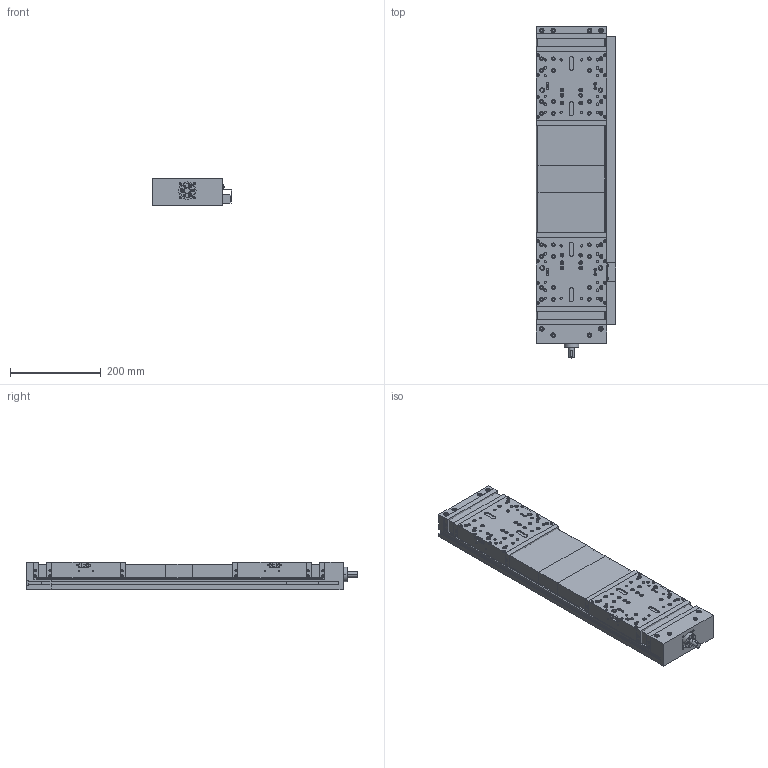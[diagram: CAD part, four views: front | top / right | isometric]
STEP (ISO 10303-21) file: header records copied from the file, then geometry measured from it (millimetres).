
FILE_DESCRIPTION(('Creo Elements/Direct Modeling STEP Export'),'2;1');
FILE_NAME('A15-B-155-RL-2x100_150_EN.stp','2020-04-21T10:16:53',(''),(''),'Creo Elements/Direct Modeling STEP processor for AP214 (Solid Model)','Creo Elements/Direct Modeling 20.1C 13-Oct-2019 (C) Parametric Technology GmbH','');
FILE_SCHEMA(('AUTOMOTIVE_DESIGN { 1 0 10303 214 1 1 1 1 }'));
Length unit declared in the file: millimetre
Products named in the file (18): A15B__Faltenbalg.02; A15B__Faltenbalg.01; A15B__Faltenbalg; A15B__Faltenbalg_kpl; Endschalter_Profil_EN1-1110; EO2_Kissling_L408.2115.25__.1; EO2_Kissling_L408.2115.25__; Schaltfahne_fuer_Endschalterleiste; Induktive_Endschalter_EN-Profil_Schaltfahne_; A15B__Grundkoerper; A15B__Schlittenplatte_150.02; A15B__Loslagerplatte; A15B__Schlittenplatte_150; NS4; NS4.1; Nutensteinpaar; Nutensteine; A15-B-155-RL-2x100_150_EN
Assembly tree (17 placements, depth 4):
  A15-B-155-RL-2x100_150_EN
    Nutensteine
      Nutensteinpaar
        NS4.1
        NS4
    A15B__Schlittenplatte_150
    A15B__Loslagerplatte
    A15B__Schlittenplatte_150.02
    A15B__Grundkoerper
    Induktive_Endschalter_EN-Profil_Schaltfahne_
      Schaltfahne_fuer_Endschalterleiste
      EO2_Kissling_L408.2115.25__
      EO2_Kissling_L408.2115.25__.1
      Endschalter_Profil_EN1-1110
    A15B__Faltenbalg_kpl
      A15B__Faltenbalg
      A15B__Faltenbalg.01
      A15B__Faltenbalg.02
Bounding box: 175.6 x 730 x 60 mm (x, y, z)
Volume: 4203255.5 mm3; surface area: 930275.3 mm2
Topology: 13 solids, 13 shells, 2854 faces, 7080 edges, 4583 vertices
Faces by surface type: plane 1882, cylinder 692, cone 272, torus 8
Entity records: 83210 total; most frequent: CARTESIAN_POINT 15888, ORIENTED_EDGE 13980, DIRECTION 12648, EDGE_CURVE 6990, VECTOR 5290, LINE 5290, VERTEX_POINT 4583, AXIS2_PLACEMENT_3D 3679
